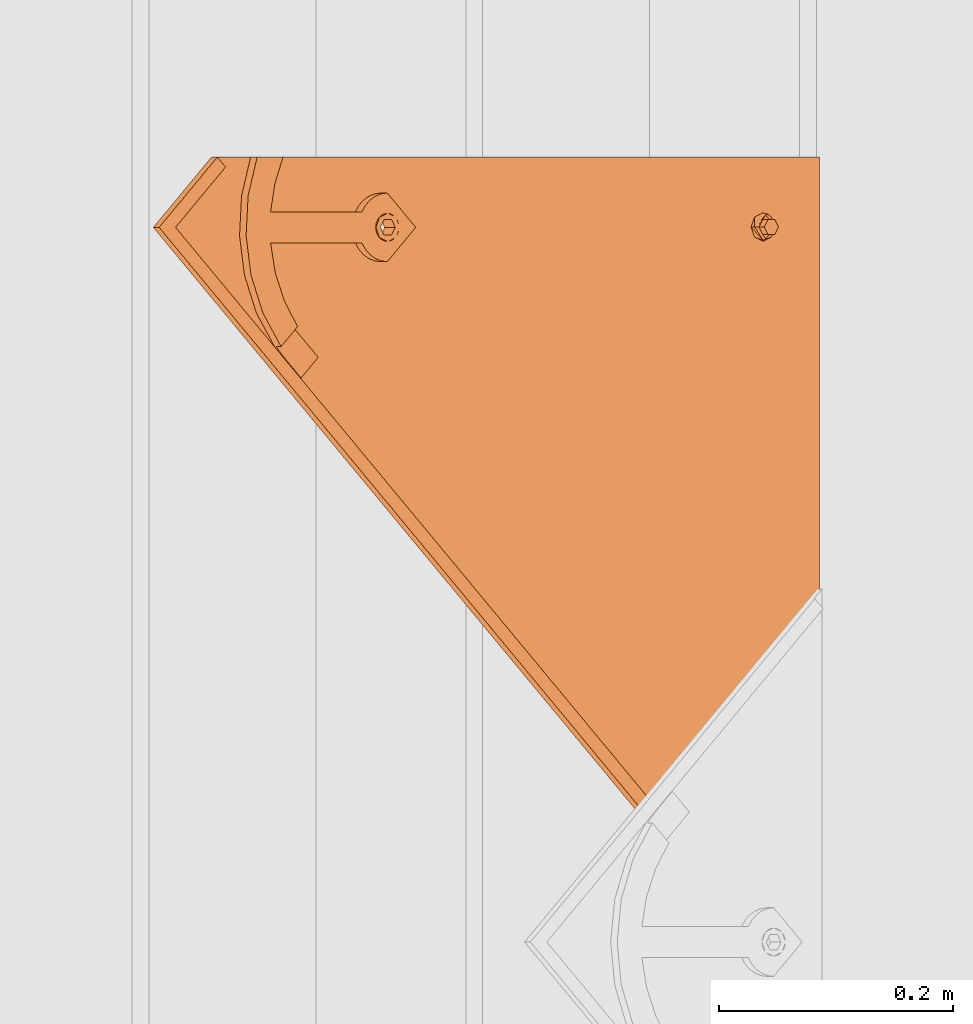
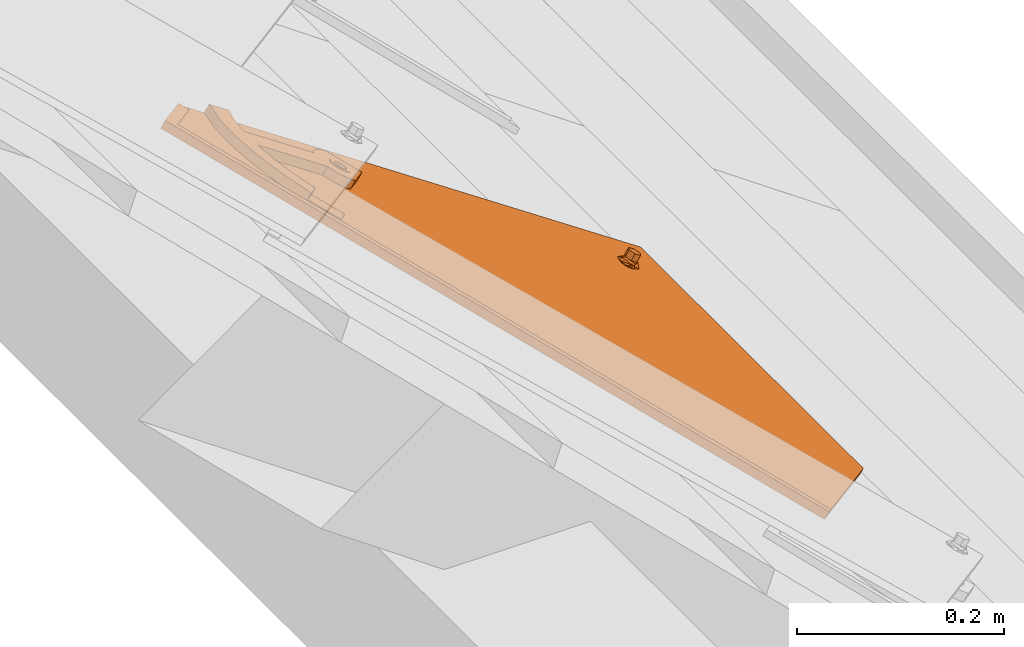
# One storey, part 137 of 151: 1 proxy.
"""IFC2X3 building model written with IfcOpenShell, lengths in millimetres."""

from ifc_helpers import new_model, entity, si_unit, converted_unit, derived_unit, direction, frame, origin, place, context, subcontext, project, spatial, faceted_brep, source, transform, mapped, material, material_list, type_object, type_shapes, element, save


model = new_model("IFC2X3")

# Units and contexts
model_context = context("Model", 3, precision=0.01, world=origin(), true_north=direction((6.12303176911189e-17, 1.0)))
body_context = subcontext(model_context, "Body", "Model", "MODEL_VIEW")
ifc_project = project(units=[si_unit("LENGTHUNIT", "METRE", prefix="MILLI"), si_unit("AREAUNIT", "SQUARE_METRE"), si_unit("VOLUMEUNIT", "CUBIC_METRE"), converted_unit("PLANEANGLEUNIT", "DEGREE", entity("IfcRatioMeasure", 0.0174532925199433), si_unit("PLANEANGLEUNIT", "RADIAN"), dimensions=[0, 0, 0, 0, 0, 0, 0]), si_unit("MASSUNIT", "GRAM", prefix="KILO"), derived_unit("MASSDENSITYUNIT", [(si_unit("MASSUNIT", "GRAM", prefix="KILO"), 1), (si_unit("LENGTHUNIT", "METRE"), -3)]), si_unit("TIMEUNIT", "SECOND"), si_unit("FREQUENCYUNIT", "HERTZ"), si_unit("THERMODYNAMICTEMPERATUREUNIT", "DEGREE_CELSIUS"), derived_unit("THERMALTRANSMITTANCEUNIT", [(si_unit("MASSUNIT", "GRAM", prefix="KILO"), 1), (si_unit("THERMODYNAMICTEMPERATUREUNIT", "KELVIN"), -1), (si_unit("TIMEUNIT", "SECOND"), -3)]), derived_unit("VOLUMETRICFLOWRATEUNIT", [(si_unit("LENGTHUNIT", "METRE"), 3), (si_unit("TIMEUNIT", "SECOND"), -1)]), si_unit("ELECTRICCURRENTUNIT", "AMPERE"), si_unit("ELECTRICVOLTAGEUNIT", "VOLT"), si_unit("POWERUNIT", "WATT"), si_unit("FORCEUNIT", "NEWTON", prefix="KILO"), si_unit("ILLUMINANCEUNIT", "LUX"), si_unit("LUMINOUSFLUXUNIT", "LUMEN"), si_unit("LUMINOUSINTENSITYUNIT", "CANDELA"), derived_unit("USERDEFINED", [(si_unit("MASSUNIT", "GRAM", prefix="KILO"), -1), (si_unit("LENGTHUNIT", "METRE"), -2), (si_unit("TIMEUNIT", "SECOND"), 3), (si_unit("LUMINOUSFLUXUNIT", "LUMEN"), 1)]), derived_unit("LINEARVELOCITYUNIT", [(si_unit("LENGTHUNIT", "METRE"), 1), (si_unit("TIMEUNIT", "SECOND"), -1)]), si_unit("PRESSUREUNIT", "PASCAL"), derived_unit("USERDEFINED", [(si_unit("LENGTHUNIT", "METRE"), -2), (si_unit("MASSUNIT", "GRAM", prefix="KILO"), 1), (si_unit("TIMEUNIT", "SECOND"), -2)])], contexts=[model_context])

# Site, building, storey
site_placement = place(None, origin())
site = spatial("IfcSite", under=ifc_project, at=site_placement, Name="Default", CompositionType="ELEMENT")
building_placement = place(site_placement, origin())
building = spatial("IfcBuilding", under=site, at=building_placement, CompositionType="ELEMENT")
storey_placement = place(building_placement, origin())
storey = spatial("IfcBuildingStorey", under=building, at=storey_placement, Name="Level 1", CompositionType="ELEMENT", Elevation=0.0)

# Proxy
ifc_material_1 = material(Name="Rubber - Sunstyle - Black")
ifc_material_2 = material(Name="Glass - Sunstyle - Tainted Black")
ifc_material_list_1 = material_list([ifc_material_1, ifc_material_2])
ifc_material_list_2 = material_list([ifc_material_1, ifc_material_2])
building_element_proxy_type = type_object("IfcBuildingElementProxyType", Name="Corner Bottom Big Right - Black", PredefinedType="NOTDEFINED", material=ifc_material_list_2)
shared_shape = source(origin(), body_context, "Body", "Brep", [
    faceted_brep([(0.270009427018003, -2.025866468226, -4.01619789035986), (-5.50419340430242, -5.35913660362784, -3.96037390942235), (-5.50419340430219, -4.99082751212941, 18.0314954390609), (0.270009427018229, -1.65755737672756, 17.9756714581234), (-5.50419340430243, -12.0256768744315, -3.84872594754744), (-5.5041934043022, -11.6573677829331, 18.1431434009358), (0.270009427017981, -15.3589470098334, -3.79290196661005), (0.270009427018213, -14.990637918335, 18.1989673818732), (6.04421225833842, -12.0256768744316, -3.84872594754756), (6.04421225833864, -11.6573677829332, 18.1431434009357), (6.04421225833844, -5.35913660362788, -3.96037390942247), (6.04421225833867, -4.99082751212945, 18.0314954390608), (-8.3336947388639, -16.9265954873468, 18.2313898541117), (0.27000942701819, -20.4898667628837, 18.2910657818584), (-11.8974656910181, -8.32409764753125, 18.0873194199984), (-8.33369473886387, 0.278400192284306, 17.9432489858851), (0.270009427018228, 3.84167146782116, 17.8835730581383), (8.87371359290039, 0.278400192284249, 17.9432489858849), (12.4374845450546, -8.32409764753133, 18.0873194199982), (8.87371359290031, -16.9265954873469, 18.2313898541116), (-11.1602134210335, -6.95050198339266, 20.4858706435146), (-9.50050407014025, -8.25322861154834, 22.3189355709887), (0.270009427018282, -0.940007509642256, 22.9603444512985), (0.27000942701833, 0.300490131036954, 22.3799978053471), (0.270009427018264, 2.4580409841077, 21.3706227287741), (-6.05323627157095, -4.59022324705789, 23.0214764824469), (-6.05323627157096, -11.8906547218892, 23.1437405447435), (0.270009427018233, -18.990246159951, 21.7298281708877), (0.270009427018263, -15.5408704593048, 23.2048725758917), (11.2551842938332, -12.0411541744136, 20.3827540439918), (10.3938597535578, -8.25726753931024, 22.077768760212), (6.59325512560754, -4.59022324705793, 23.0214764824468), (6.5932551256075, -11.8906547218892, 23.1437405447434), (-6.05323627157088, -11.7566262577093, 31.1466287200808), (0.270009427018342, -15.4068419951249, 31.207760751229), (0.270009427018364, -8.10641052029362, 31.0854966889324), (-6.05323627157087, -4.456194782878, 31.0243646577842), (6.59325512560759, -11.7566262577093, 31.1466287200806), (6.59325512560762, -4.45619478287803, 31.024364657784), (0.270009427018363, -0.805979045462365, 30.9632326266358), (0.270009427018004, -8.69240673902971, -3.90454992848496)], [[[0, 1, 2, 3]], [[1, 4, 5, 2]], [[4, 6, 7, 5]], [[6, 8, 9, 7]], [[8, 10, 11, 9]], [[10, 0, 3, 11]], [[12, 7, 13]], [[7, 12, 5]], [[14, 5, 12]], [[5, 14, 2]], [[15, 2, 14]], [[3, 2, 15]], [[15, 16, 3]], [[16, 17, 3]], [[11, 3, 17]], [[11, 17, 18]], [[9, 11, 18]], [[18, 19, 9]], [[7, 9, 19]], [[19, 13, 7]], [[15, 20, 16]], [[21, 22, 23, 24]], [[22, 21, 25]], [[20, 14, 12]], [[15, 14, 20]], [[25, 21, 26]], [[20, 24, 16]], [[12, 13, 27]], [[12, 27, 20]], [[21, 28, 26]], [[21, 27, 28]], [[20, 21, 24]], [[20, 27, 21]], [[19, 29, 13]], [[30, 23, 31]], [[30, 28, 27]], [[24, 23, 30]], [[29, 27, 13]], [[19, 18, 29]], [[29, 30, 27]], [[29, 17, 24]], [[24, 17, 16]], [[31, 32, 30]], [[23, 22, 31]], [[28, 30, 32]], [[29, 24, 30]], [[29, 18, 17]], [[33, 34, 35]], [[35, 36, 33]], [[34, 37, 35]], [[38, 35, 37]], [[35, 38, 39]], [[35, 39, 36]], [[40, 6, 4]], [[4, 1, 40]], [[1, 0, 40]], [[40, 8, 6]], [[0, 10, 40]], [[8, 40, 10]], [[22, 25, 36, 39]], [[25, 26, 33, 36]], [[26, 28, 34, 33]], [[28, 32, 37, 34]], [[32, 31, 38, 37]], [[31, 22, 39, 38]]]),
    faceted_brep([(-518.247351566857, 79.9143812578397, 14.9652572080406), (-518.247351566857, 79.9394990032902, 16.4650468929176), (-526.732038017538, 88.4241854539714, 16.3229495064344), (-526.732038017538, 88.399067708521, 14.8231598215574), (-0.00032251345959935, 614.98308737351, 6.00418773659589), (60.1037538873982, 554.895864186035, 7.01049921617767), (51.6190674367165, 546.411177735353, 7.15259660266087), (-0.000322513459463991, 598.016093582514, 6.28834266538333), (-0.000322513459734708, 615.00820511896, 7.50397742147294), (-0.000322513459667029, 598.041211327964, 7.78813235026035), (51.6190674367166, 546.436295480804, 8.65238628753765), (60.1037538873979, 554.920981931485, 8.51028890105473)], [[[0, 1, 2, 3]], [[0, 3, 4, 5, 6, 7]], [[3, 2, 8, 4]], [[2, 1, 9, 10, 11, 8]], [[1, 0, 7, 9]], [[6, 5, 11, 10]], [[4, 8, 11, 5]], [[9, 7, 6, 10]]]),
    faceted_brep([(0.0, 372.774440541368, 20.3195200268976), (0.0, 377.273809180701, 20.2441667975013), (-8.60370416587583, 376.337711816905, 20.2598440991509), (8.60370416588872, 376.337711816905, 20.2598440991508), (6.64022859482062, 381.107009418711, 20.1799702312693), (12.1674751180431, 384.940209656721, 20.1157736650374), (6.64022859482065, 388.773409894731, 20.0515770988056), (8.6037041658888, 393.542707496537, 19.9717032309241), (0.0, 392.606610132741, 19.9873805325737), (0.0, 397.105978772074, 19.9120273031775), (-8.60370416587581, 393.542707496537, 19.9717032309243), (-6.64022859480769, 388.773409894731, 20.0515770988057), (-12.1674751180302, 384.940209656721, 20.1157736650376), (-6.6402285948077, 381.107009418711, 20.1799702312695), (-6.6402282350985, 388.505487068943, 4.05382046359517), (0.0, 392.338687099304, 3.98962390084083), (-6.64022823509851, 380.839087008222, 4.18221358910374), (0.0, 377.005886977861, 4.24641015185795), (6.64022823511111, 380.839087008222, 4.1822135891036), (6.64022823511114, 388.505487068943, 4.05382046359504), (-8.603704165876, 376.069789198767, 4.26208746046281), (0.0, 372.50651792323, 4.32176338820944), (-12.1674751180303, 384.672287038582, 4.11801702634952), (-8.60370416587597, 393.274784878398, 3.97394659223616), (0.0, 396.838056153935, 3.91427066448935), (8.60370416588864, 393.274784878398, 3.97394659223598), (12.1674751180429, 384.672287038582, 4.11801702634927), (8.60370416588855, 376.069789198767, 4.26208746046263)], [[[0, 1, 2]], [[1, 0, 3]], [[3, 4, 1]], [[4, 3, 5]], [[6, 4, 5]], [[5, 7, 6]], [[7, 8, 6]], [[8, 7, 9]], [[8, 9, 10]], [[10, 11, 8]], [[12, 11, 10]], [[2, 13, 12]], [[12, 13, 11]], [[13, 2, 1]], [[8, 11, 14, 15]], [[11, 13, 16, 14]], [[13, 1, 17, 16]], [[1, 4, 18, 17]], [[4, 6, 19, 18]], [[6, 8, 15, 19]], [[20, 17, 21]], [[17, 20, 16]], [[22, 16, 20]], [[14, 16, 22]], [[23, 14, 22]], [[15, 14, 23]], [[23, 24, 15]], [[24, 25, 15]], [[19, 15, 25]], [[19, 25, 26]], [[26, 18, 19]], [[26, 27, 18]], [[17, 18, 27]], [[27, 21, 17]], [[24, 23, 10, 9]], [[10, 23, 22, 12]], [[20, 21, 0, 2]], [[20, 2, 12, 22]], [[21, 27, 3, 0]], [[3, 27, 26, 5]], [[25, 24, 9, 7]], [[25, 7, 5, 26]]]),
    faceted_brep([(-10.3923048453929, 390.78484910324, 9.75895037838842), (-8.48528137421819, 393.269782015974, 9.7173339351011), (-0.00032251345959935, 614.983087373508, 6.0041877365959), (-11.5911099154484, 387.891083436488, 9.8074137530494), (-6.0, 395.176538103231, 9.68540051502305), (-3.10582854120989, 396.37517508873, 9.6653263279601), (60.1037538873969, 554.895864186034, 7.01049921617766), (0.0, 396.784007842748, 9.65847939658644), (3.1058285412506, 396.37517508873, 9.6653263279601), (6.0, 395.176538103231, 9.68540051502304), (8.48528137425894, 393.269782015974, 9.7173339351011), (10.3923048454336, 390.784849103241, 9.75895037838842), (11.5911099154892, 387.891083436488, 9.8074137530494), (12.0, 384.785690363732, 9.8594213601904), (11.5911099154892, 381.680297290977, 9.9114289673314), (60.103753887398, -67.933460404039, 17.4413406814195), (10.3923048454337, 378.786531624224, 9.95989234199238), (6.58173564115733, -3.94243384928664, 16.369650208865), (8.48528137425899, 376.301598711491, 10.0015087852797), (5.31038666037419, -2.28581190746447, 16.3419059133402), (6.0, 374.394842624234, 10.0334422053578), (3.65353241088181, -1.01464118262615, 16.3206169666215), (3.10582854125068, 373.196205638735, 10.0535163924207), (1.72408477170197, -0.215549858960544, 16.3072341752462), (0.0, 372.787372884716, 10.0603633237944), (-0.346467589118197, 0.0570053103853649, 16.3026695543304), (-2.41701994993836, -0.215549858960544, 16.3072341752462), (-3.10582854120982, 373.196205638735, 10.0535163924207), (-4.34646758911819, -1.01464118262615, 16.3206169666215), (-6.0, 374.394842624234, 10.0334422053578), (-6.00332183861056, -2.28581190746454, 16.3419059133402), (-8.48528137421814, 376.301598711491, 10.0015087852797), (-370.355661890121, -67.9334604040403, 17.4413406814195), (-10.3923048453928, 378.786531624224, 9.95989234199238), (-526.732038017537, 88.3990677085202, 14.8231598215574), (-11.5911099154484, 381.680297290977, 9.9114289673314), (-12.0, 384.785690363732, 9.8594213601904), (-7.27467081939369, -3.94243384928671, 16.369650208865), (-8.07387419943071, -5.87161096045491, 16.4019591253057), (-8.34646758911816, -7.94187300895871, 16.4366308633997), (-8.0738741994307, -10.0121350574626, 16.4713026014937), (-7.27467081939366, -11.9413121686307, 16.5036115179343), (-6.00332183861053, -13.5979341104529, 16.5313558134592), (-4.34646758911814, -14.8691048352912, 16.5526447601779), (-2.41701994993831, -15.6681961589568, 16.5660275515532), (7.38093902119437, -5.87161096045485, 16.4019591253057), (7.65353241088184, -7.94187300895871, 16.4366308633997), (7.38093902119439, -10.0121350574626, 16.4713026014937), (6.58173564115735, -11.9413121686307, 16.5036115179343), (5.31038666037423, -13.5979341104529, 16.5313558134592), (3.65353241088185, -14.8691048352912, 16.5526447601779), (1.72408477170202, -15.6681961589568, 16.5660275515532), (-0.346467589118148, -15.9407513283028, 16.570592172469), (-370.355661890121, -68.0590491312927, 9.94239225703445), (-8.0738741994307, -10.1377237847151, 8.97235417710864), (-7.27467081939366, -12.0669008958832, 9.00466309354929), (-8.34646758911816, -8.06746173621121, 8.93768243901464), (-6.00332183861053, -13.7235228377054, 9.03240738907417), (-4.34646758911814, -14.9946935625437, 9.05369633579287), (60.103753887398, -68.0590491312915, 9.94239225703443), (-8.07387419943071, -5.99719968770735, 8.90301070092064), (-7.27467081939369, -4.06802257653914, 8.87070178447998), (-6.00332183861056, -2.41140063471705, 8.8429574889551), (-8.48528137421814, 376.176009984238, 2.50256036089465), (-10.3923048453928, 378.660942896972, 2.46094391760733), (-526.732038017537, 88.2734789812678, 7.32421139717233), (-11.5911099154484, 381.554708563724, 2.41248054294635), (-12.0, 384.66010163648, 2.36047293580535), (-11.5911099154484, 387.765494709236, 2.30846532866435), (-0.00032251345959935, 614.857498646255, -1.49476068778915), (-10.3923048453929, 390.659260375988, 2.26000195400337), (-8.48528137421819, 393.144193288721, 2.21838551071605), (-6.0, 395.050949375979, 2.18645209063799), (-3.10582854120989, 396.249586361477, 2.16637790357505), (60.1037538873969, 554.770275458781, -0.488449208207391), (0.0, 396.658419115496, 2.15953097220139), (3.1058285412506, 396.249586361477, 2.16637790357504), (6.0, 395.050949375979, 2.18645209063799), (8.48528137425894, 393.144193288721, 2.21838551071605), (10.3923048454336, 390.659260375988, 2.26000195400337), (11.5911099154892, 387.765494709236, 2.30846532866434), (12.0, 384.66010163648, 2.36047293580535), (11.5911099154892, 381.554708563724, 2.41248054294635), (-2.41701994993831, -15.7937848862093, 9.06707912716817), (-0.346467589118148, -16.0663400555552, 9.07164374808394), (1.72408477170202, -15.7937848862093, 9.06707912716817), (3.65353241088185, -14.9946935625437, 9.05369633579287), (5.31038666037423, -13.7235228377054, 9.03240738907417), (6.58173564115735, -12.0669008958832, 9.00466309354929), (7.38093902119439, -10.1377237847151, 8.97235417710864), (7.65353241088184, -8.06746173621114, 8.93768243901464), (7.38093902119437, -5.99719968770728, 8.90301070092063), (6.58173564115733, -4.06802257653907, 8.87070178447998), (10.3923048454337, 378.660942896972, 2.46094391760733), (-6.0, 374.269253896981, 2.5344937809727), (-4.34646758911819, -1.14022990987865, 8.8216685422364), (-3.10582854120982, 373.070616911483, 2.55456796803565), (-2.41701994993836, -0.341138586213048, 8.8082857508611), (0.0, 372.661784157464, 2.56141489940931), (-0.346467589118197, -0.0685834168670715, 8.80372112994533), (1.72408477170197, -0.341138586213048, 8.8082857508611), (3.10582854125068, 373.070616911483, 2.55456796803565), (3.65353241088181, -1.14022990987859, 8.8216685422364), (6.0, 374.269253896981, 2.5344937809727), (5.31038666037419, -2.41140063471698, 8.8429574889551), (8.48528137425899, 376.176009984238, 2.50256036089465)], [[[0, 1, 2]], [[3, 0, 2]], [[4, 2, 1]], [[2, 4, 5]], [[6, 2, 5]], [[7, 6, 5]], [[7, 8, 6]], [[8, 9, 6]], [[10, 6, 9]], [[6, 10, 11]], [[6, 11, 12]], [[12, 13, 6]], [[13, 14, 6]], [[6, 14, 15]], [[14, 16, 15]], [[17, 15, 16]], [[18, 17, 16]], [[17, 18, 19]], [[18, 20, 19]], [[21, 19, 20]], [[20, 22, 21]], [[23, 21, 22]], [[24, 23, 22]], [[23, 24, 25]], [[26, 25, 24]], [[24, 27, 26]], [[26, 27, 28]], [[29, 28, 27]], [[28, 29, 30]], [[29, 31, 30]], [[32, 30, 31]], [[33, 32, 31]], [[33, 34, 32]], [[33, 35, 34]], [[35, 36, 34]], [[36, 3, 34]], [[3, 2, 34]], [[30, 32, 37]], [[37, 32, 38]], [[32, 39, 38]], [[39, 32, 40]], [[40, 32, 41]], [[42, 41, 32]], [[42, 32, 43]], [[43, 32, 15]], [[15, 44, 43]], [[17, 45, 15]], [[45, 46, 15]], [[47, 15, 46]], [[47, 48, 15]], [[49, 15, 48]], [[15, 49, 50]], [[50, 51, 15]], [[51, 52, 15]], [[52, 44, 15]], [[53, 54, 55]], [[54, 53, 56]], [[53, 55, 57]], [[57, 58, 53]], [[53, 58, 59]], [[60, 56, 53]], [[61, 60, 53]], [[61, 53, 62]], [[63, 62, 53]], [[64, 63, 53]], [[65, 64, 53]], [[65, 66, 64]], [[66, 65, 67]], [[67, 65, 68]], [[65, 69, 68]], [[70, 68, 69]], [[71, 70, 69]], [[72, 71, 69]], [[69, 73, 72]], [[74, 73, 69]], [[75, 73, 74]], [[76, 75, 74]], [[77, 76, 74]], [[74, 78, 77]], [[78, 74, 79]], [[80, 79, 74]], [[80, 74, 81]], [[82, 81, 74]], [[82, 74, 59]], [[59, 58, 83]], [[84, 59, 83]], [[84, 85, 59]], [[85, 86, 59]], [[87, 59, 86]], [[59, 87, 88]], [[59, 88, 89]], [[89, 90, 59]], [[90, 91, 59]], [[91, 92, 59]], [[92, 93, 59]], [[93, 82, 59]], [[94, 62, 63]], [[94, 95, 62]], [[96, 95, 94]], [[97, 95, 96]], [[96, 98, 97]], [[99, 97, 98]], [[99, 98, 100]], [[101, 100, 98]], [[102, 100, 101]], [[103, 102, 101]], [[104, 102, 103]], [[103, 105, 104]], [[105, 92, 104]], [[105, 93, 92]], [[36, 67, 68, 3]], [[3, 68, 70, 0]], [[4, 1, 71, 72]], [[70, 71, 1, 0]], [[5, 4, 72, 73]], [[75, 7, 5, 73]], [[8, 76, 77, 9]], [[9, 77, 78, 10]], [[12, 11, 79, 80]], [[78, 79, 11, 10]], [[13, 12, 80, 81]], [[8, 7, 75, 76]], [[13, 81, 82, 14]], [[14, 82, 93, 16]], [[20, 18, 105, 103]], [[93, 105, 18, 16]], [[22, 20, 103, 101]], [[98, 24, 22, 101]], [[27, 96, 94, 29]], [[29, 94, 63, 31]], [[35, 33, 64, 66]], [[63, 64, 33, 31]], [[36, 35, 66, 67]], [[27, 24, 98, 96]], [[34, 2, 69, 65]], [[32, 34, 65, 53]], [[15, 32, 53, 59]], [[6, 15, 59, 74]], [[2, 6, 74, 69]], [[39, 56, 60, 38]], [[38, 60, 61, 37]], [[28, 30, 62, 95]], [[62, 30, 37, 61]], [[26, 28, 95, 97]], [[26, 97, 99, 25]], [[25, 99, 100, 23]], [[23, 100, 102, 21]], [[17, 19, 104, 92]], [[104, 19, 21, 102]], [[45, 17, 92, 91]], [[45, 91, 90, 46]], [[46, 90, 89, 47]], [[47, 89, 88, 48]], [[50, 49, 87, 86]], [[87, 49, 48, 88]], [[51, 50, 86, 85]], [[51, 85, 84, 52]], [[52, 84, 83, 44]], [[44, 83, 58, 43]], [[41, 42, 57, 55]], [[57, 42, 43, 58]], [[40, 41, 55, 54]], [[40, 54, 56, 39]]]),
    faceted_brep([(-114.2509690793, 483.839345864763, 10.7008696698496), (-128.946713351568, 469.147722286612, 10.9469178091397), (-111.269043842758, 451.472531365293, 11.2429332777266), (-84.944396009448, 477.793488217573, 10.8021227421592), (-102.027571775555, 494.874268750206, 10.5160621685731), (-108.279973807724, 489.512620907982, 10.6058564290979), (0.0, 355.735286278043, 10.3459433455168), (0.0, 373.122276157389, 10.0547545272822), (3.10582854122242, 373.531108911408, 10.0479075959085), (-3.10582854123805, 373.531108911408, 10.0479075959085), (6.0, 374.729745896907, 10.0278334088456), (8.48528137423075, 376.636501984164, 9.99589998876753), (29.3894280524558, 385.120593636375, 9.85381256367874), (-6.0, 374.729745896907, 10.0278334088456), (-8.4852813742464, 376.636501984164, 9.99589998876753), (-29.3894280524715, 385.120593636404, 9.85381256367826), (-10.3923048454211, 379.121434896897, 9.95428354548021), (-11.5911099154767, 382.01520056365, 9.90582017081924), (-12.0, 385.120593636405, 9.85381256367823), (-28.6795527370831, 391.540108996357, 9.74630165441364), (-11.5911099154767, 388.225986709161, 9.80180495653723), (-26.5842195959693, 397.649509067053, 9.64398440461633), (-10.3923048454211, 391.119752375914, 9.75334158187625), (-23.204650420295, 403.153659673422, 9.55180357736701), (-8.48528137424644, 393.604685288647, 9.71172513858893), (-18.704106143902, 407.786665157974, 9.47421226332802), (-6.0, 395.511441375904, 9.67979171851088), (-13.3000000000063, 411.324713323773, 9.41495875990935), (-3.10582854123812, 396.710078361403, 9.65971753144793), (0.0, 397.118911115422, 9.65287060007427), (13.2999999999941, 411.324713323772, 9.41495875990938), (-13.3000000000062, 505.643535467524, 7.83535317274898), (13.2999999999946, 505.643535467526, 7.83535317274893), (-7.21723712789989, 530.953901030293, 7.41146752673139), (-41.1626974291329, 525.784666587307, 7.49803934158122), (-38.7697427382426, 500.828655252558, 7.91599043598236), (-73.2491712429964, 513.560140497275, 7.70276973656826), (-62.9243331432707, 491.42502143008, 8.07347790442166), (-84.9431983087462, 477.752822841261, 8.30245321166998), (-102.027571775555, 494.832405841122, 8.01641269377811), (-108.279973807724, 489.470757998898, 8.10620695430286), (-114.2509690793, 483.79748295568, 8.20122019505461), (-111.269043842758, 451.430668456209, 8.74328380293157), (-128.946713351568, 469.105859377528, 8.44726833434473), (27.0541674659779, 528.834391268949, 7.44696404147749), (37.2599857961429, 501.252149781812, 7.90889795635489), (60.1037538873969, 519.521858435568, 7.60292579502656), (60.1037538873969, 492.795625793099, 8.05052369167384), (3.10582854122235, 396.710078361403, 9.65971753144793), (6.0, 395.511441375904, 9.67979171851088), (18.7041061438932, 407.786665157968, 9.47421226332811), (8.48528137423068, 393.604685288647, 9.71172513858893), (23.2046504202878, 403.153659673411, 9.55180357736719), (10.3923048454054, 391.119752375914, 9.75334158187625), (26.5842195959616, 397.649509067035, 9.64398440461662), (11.591109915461, 388.225986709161, 9.80180495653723), (28.6795527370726, 391.540108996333, 9.74630165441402), (12.0, 385.120593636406, 9.85381256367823), (11.591109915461, 382.01520056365, 9.90582017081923), (10.3923048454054, 379.121434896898, 9.95428354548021), (-38.7697427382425, 500.996106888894, 17.9145883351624), (-41.1626974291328, 525.952118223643, 17.4966372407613), (-73.2491712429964, 513.727592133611, 17.7013676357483), (-62.9243331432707, 491.592473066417, 18.0720758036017), (-13.3000000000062, 505.810987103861, 17.833951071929), (-7.21723712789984, 531.121352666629, 17.4100654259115), (13.2999999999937, 505.810987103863, 17.833951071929), (-13.3000000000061, 411.49216496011, 19.4135566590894), (13.2999999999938, 411.492164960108, 19.4135566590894), (0.0, 397.286362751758, 19.6514684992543), (-3.10582854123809, 396.877529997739, 19.658315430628), (-6.0, 395.678893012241, 19.6783896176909), (-18.7041061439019, 407.954116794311, 19.4728101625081), (-8.48528137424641, 393.772136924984, 19.710323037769), (-23.2046504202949, 403.321111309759, 19.5504014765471), (-10.3923048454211, 391.28720401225, 19.7519394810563), (-26.5842195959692, 397.816960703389, 19.6425823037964), (-11.5911099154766, 388.393438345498, 19.8004028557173), (-28.6795527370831, 391.707560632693, 19.7448995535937), (-12.0, 385.288045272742, 19.8524104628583), (-29.3894280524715, 385.28804527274, 19.8524104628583), (-11.5911099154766, 382.182652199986, 19.9044180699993), (-10.3923048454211, 379.288886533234, 19.9528814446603), (-8.48528137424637, 376.803953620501, 19.9944978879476), (0.0, 355.902737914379, 20.3445412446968), (-6.0, 374.897197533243, 20.0264313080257), (-3.10582854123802, 373.698560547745, 20.0465054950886), (0.0, 373.289727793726, 20.0533524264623), (3.10582854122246, 373.698560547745, 20.0465054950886), (6.0, 374.897197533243, 20.0264313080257), (8.48528137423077, 376.803953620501, 19.9944978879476), (29.3894280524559, 385.288045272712, 19.8524104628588), (10.3923048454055, 379.288886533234, 19.9528814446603), (11.591109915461, 382.182652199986, 19.9044180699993), (12.0, 385.288045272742, 19.8524104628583), (28.6795527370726, 391.70756063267, 19.7448995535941), (11.591109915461, 388.393438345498, 19.8004028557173), (26.5842195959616, 397.816960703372, 19.6425823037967), (10.3923048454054, 391.28720401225, 19.7519394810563), (23.2046504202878, 403.321111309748, 19.5504014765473), (8.48528137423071, 393.772136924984, 19.710323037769), (18.7041061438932, 407.954116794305, 19.4728101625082), (6.0, 395.678893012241, 19.6783896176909), (3.10582854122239, 396.877529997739, 19.658315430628), (27.0541674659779, 529.001842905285, 17.4455619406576), (37.259985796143, 501.419601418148, 17.907495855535), (60.1037538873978, 519.689310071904, 17.6015236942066), (60.1037538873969, 492.963077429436, 18.0491215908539), (-84.9443960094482, 477.919076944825, 18.3010711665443), (-102.027571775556, 494.999857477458, 18.0150105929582)], [[[0, 1, 2, 3, 4, 5]], [[6, 7, 8]], [[7, 6, 9]], [[6, 8, 10]], [[10, 11, 6]], [[6, 11, 12]], [[13, 9, 6]], [[14, 13, 6]], [[14, 6, 15]], [[15, 16, 14]], [[16, 15, 17]], [[17, 15, 18]], [[19, 18, 15]], [[20, 18, 19]], [[19, 21, 20]], [[20, 21, 22]], [[23, 22, 21]], [[23, 24, 22]], [[23, 25, 24]], [[25, 26, 24]], [[26, 25, 27]], [[28, 26, 27]], [[27, 29, 28]], [[30, 29, 27]], [[30, 27, 31]], [[30, 31, 32]], [[31, 33, 32]], [[33, 31, 34]], [[35, 34, 31]], [[34, 35, 36]], [[37, 36, 35]], [[37, 38, 36]], [[36, 38, 39]], [[40, 39, 38]], [[40, 38, 41]], [[38, 42, 41]], [[42, 43, 41]], [[32, 33, 44]], [[44, 45, 32]], [[45, 44, 46]], [[46, 47, 45]], [[48, 29, 30]], [[30, 49, 48]], [[49, 30, 50]], [[50, 51, 49]], [[50, 52, 51]], [[51, 52, 53]], [[54, 53, 52]], [[54, 55, 53]], [[56, 55, 54]], [[57, 55, 56]], [[12, 57, 56]], [[58, 57, 12]], [[12, 11, 59]], [[58, 12, 59]], [[1, 0, 41, 43]], [[2, 1, 43, 42]], [[4, 39, 40, 5]], [[40, 41, 0, 5]], [[3, 2, 42, 38]], [[60, 61, 62]], [[63, 60, 62]], [[64, 61, 60]], [[61, 64, 65]], [[66, 65, 64]], [[66, 64, 67]], [[66, 67, 68]], [[68, 67, 69]], [[67, 70, 69]], [[71, 70, 67]], [[71, 67, 72]], [[72, 73, 71]], [[73, 72, 74]], [[73, 74, 75]], [[74, 76, 75]], [[75, 76, 77]], [[78, 77, 76]], [[78, 79, 77]], [[78, 80, 79]], [[79, 80, 81]], [[82, 81, 80]], [[83, 82, 80]], [[83, 80, 84]], [[85, 83, 84]], [[86, 85, 84]], [[87, 86, 84]], [[87, 84, 88]], [[89, 88, 84]], [[89, 84, 90]], [[91, 90, 84]], [[92, 90, 91]], [[91, 93, 92]], [[93, 91, 94]], [[95, 94, 91]], [[95, 96, 94]], [[95, 97, 96]], [[96, 97, 98]], [[99, 98, 97]], [[98, 99, 100]], [[100, 99, 101]], [[101, 68, 102]], [[100, 101, 102]], [[102, 68, 103]], [[103, 68, 69]], [[66, 104, 65]], [[105, 104, 66]], [[105, 106, 104]], [[106, 105, 107]], [[108, 63, 62]], [[62, 109, 108]], [[66, 68, 30, 32]], [[95, 91, 12, 56]], [[97, 95, 56, 54]], [[54, 52, 99, 97]], [[101, 99, 52, 50]], [[68, 101, 50, 30]], [[91, 84, 6, 12]], [[84, 80, 15, 6]], [[72, 67, 27, 25]], [[74, 72, 25, 23]], [[23, 21, 76, 74]], [[78, 76, 21, 19]], [[80, 78, 19, 15]], [[67, 64, 31, 27]], [[104, 106, 46, 44]], [[65, 104, 44, 33]], [[33, 34, 61, 65]], [[62, 61, 34, 36]], [[4, 109, 62, 36, 39]], [[79, 18, 20, 77]], [[77, 20, 22, 75]], [[71, 73, 24, 26]], [[22, 24, 73, 75]], [[70, 71, 26, 28]], [[29, 69, 70, 28]], [[103, 48, 49, 102]], [[102, 49, 51, 100]], [[96, 98, 53, 55]], [[51, 53, 98, 100]], [[94, 96, 55, 57]], [[103, 69, 29, 48]], [[94, 57, 58, 93]], [[93, 58, 59, 92]], [[89, 90, 11, 10]], [[59, 11, 90, 92]], [[88, 89, 10, 8]], [[7, 87, 88, 8]], [[86, 9, 13, 85]], [[85, 13, 14, 83]], [[81, 82, 16, 17]], [[14, 16, 82, 83]], [[79, 81, 17, 18]], [[86, 87, 7, 9]], [[108, 109, 4, 3]], [[32, 45, 105, 66]], [[47, 107, 105, 45]], [[3, 37, 63, 108]], [[3, 38, 37]], [[35, 31, 64, 60]], [[37, 35, 60, 63]], [[106, 107, 47, 46]]]),
])
type_shapes(building_element_proxy_type, [shared_shape])
proxy_placement = place(storey_placement, frame((4500.27316942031, 2644.79062815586, 564.643296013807), z_axis=(0.573576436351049, 0.0, 0.81915204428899), x_axis=(0.0, 1.0, 0.0)))
element("IfcBuildingElementProxy", 1, at=proxy_placement, inside=storey, type_object=building_element_proxy_type, material=ifc_material_list_1, Name="Roofing_Panels_SunStyle_Tile_Corner-Bottom-Big-Right:Corner Bottom Big Right - Black", ObjectType="Roofing_Panels_SunStyle_Tile_Corner-Bottom-Big-Right:Corner Bottom Big Right - Black", context=body_context, shape_type="MappedRepresentation", body=[
    mapped(shared_shape, transform((0.0, 0.0, 0.0), scale=1.0)),
])

save(model, "model.ifc")
